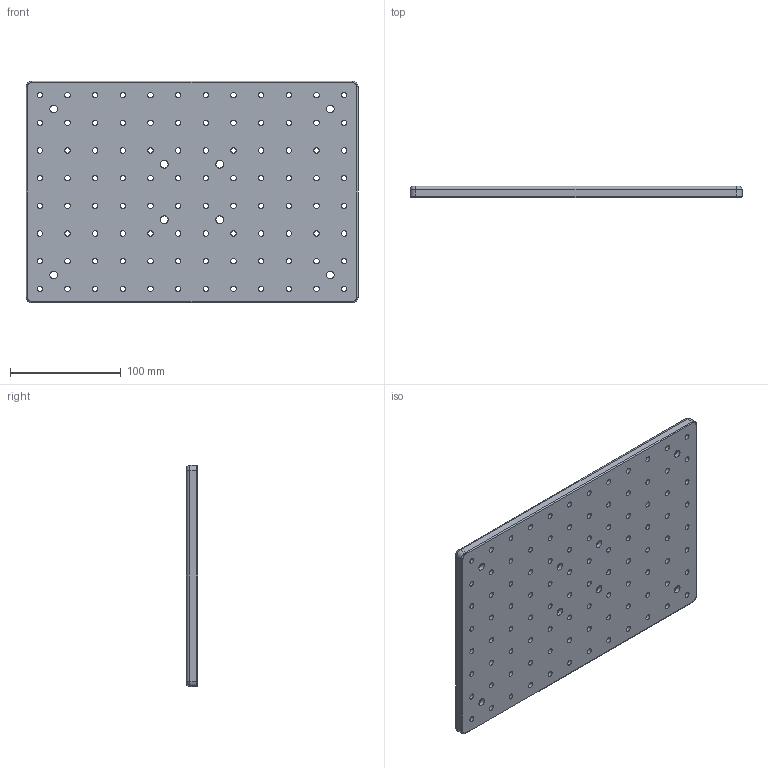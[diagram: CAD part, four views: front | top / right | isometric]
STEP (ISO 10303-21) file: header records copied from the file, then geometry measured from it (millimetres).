
FILE_DESCRIPTION (( 'STEP AP203' ), '1' );
FILE_NAME ('M-SNB-2030-10.step', '2017-01-10T01:13:08', ( '¦K¬P' ), ( '' ), 'SwSTEP 2.0', 'SolidWorks 2012', '' );
FILE_SCHEMA (( 'CONFIG_CONTROL_DESIGN' ));
Length unit declared in the file: millimetre
Products named in the file (1): M-SNB-2030-10
Bounding box: 300 x 10 x 200 mm (x, y, z)
Volume: 572842.6 mm3; surface area: 141261.4 mm2
Topology: 1 solids, 1 shells, 146 faces, 392 edges, 256 vertices
Faces by surface type: cylinder 124, plane 14, torus 8
Full cylindrical faces by diameter (mm): 5 x96, 7 x8, 11 x8
Entity records: 4637 total; most frequent: DIRECTION 830, CARTESIAN_POINT 683, ORIENTED_EDGE 560, EDGE_LOOP 474, AXIS2_PLACEMENT_3D 403, EDGE_CURVE 280, FACE_OUTER_BOUND 258, CIRCLE 256
